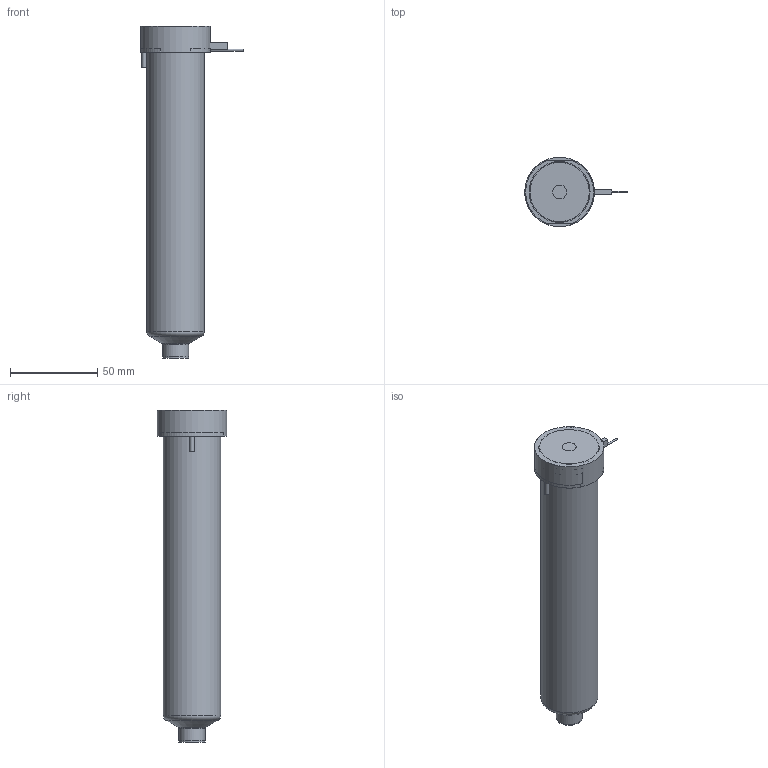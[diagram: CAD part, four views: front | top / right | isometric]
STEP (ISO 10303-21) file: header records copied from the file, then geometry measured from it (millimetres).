
FILE_DESCRIPTION(/* description */ (''),/* implementation_level */ '2;1');
FILE_NAME(/* name */ 'BXTBE19175_250C_a',/* time_stamp */ '2016-03-02T15:14:48+13:00',/* author */ (''),/* organization */ (''),/* preprocessor_version */ 'ST-DEVELOPER v9',/* originating_system */ 'UGS - NX 4.0',/* authorisation */ '');
FILE_SCHEMA (('CONFIG_CONTROL_DESIGN'));
Length unit declared in the file: millimetre
Products named in the file (1): matt3462e0f0
Bounding box: 58.85 x 40 x 190.78 mm (x, y, z)
Volume: 284881.1 mm3; surface area: 42133.8 mm2
Topology: 2 solids, 2 shells, 64 faces, 145 edges, 94 vertices
Faces by surface type: plane 30, cylinder 20, torus 7, cone 6, bspline 1
Full cylindrical faces by diameter (mm): 1 x2, 1.2 x1, 2.5 x1, 8 x1, 14.61 x1, 15.01 x2, 18.3 x1, 28.6 x1, 33 x1, 40 x1
Entity records: 1889 total; most frequent: CARTESIAN_POINT 477, DIRECTION 289, ORIENTED_EDGE 228, AXIS2_PLACEMENT_3D 123, EDGE_CURVE 114, EDGE_LOOP 98, VERTEX_POINT 86, ADVANCED_FACE 64
